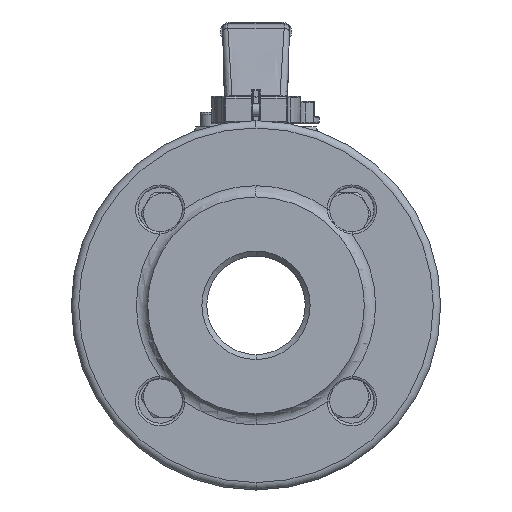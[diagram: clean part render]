
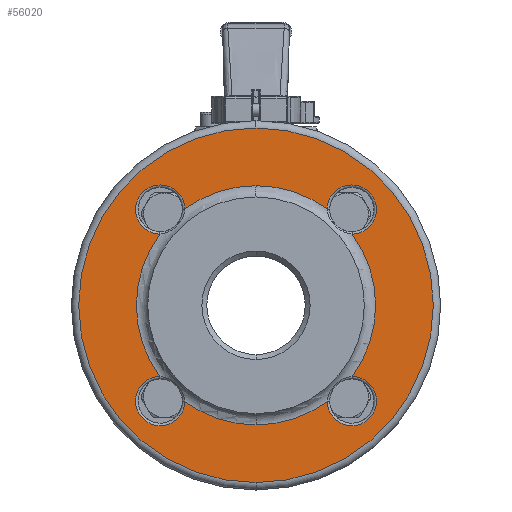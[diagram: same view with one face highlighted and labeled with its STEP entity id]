
A CAD part, left-side view. The second image highlights one B-rep face of the part: STEP entity #56020.
In plain terms, the highlighted planar face has unit normal (-1, 0, 0).
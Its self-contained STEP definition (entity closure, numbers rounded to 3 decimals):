
#57=CARTESIAN_POINT('',(-47.,0.,0.));
#58=DIRECTION('',(1.,0.,0.));
#59=DIRECTION('',(0.,0.804,-0.595));
#60=AXIS2_PLACEMENT_3D('',#57,#58,#59);
#62=CARTESIAN_POINT('',(-47.,0.,0.));
#63=DIRECTION('',(1.,0.,0.));
#64=DIRECTION('',(0.,0.,-1.));
#65=AXIS2_PLACEMENT_3D('',#62,#63,#64);
#67=CARTESIAN_POINT('',(-47.,0.,0.));
#68=DIRECTION('',(-1.,0.,0.));
#69=DIRECTION('',(0.,0.,-1.));
#70=AXIS2_PLACEMENT_3D('',#67,#68,#69);
#72=CARTESIAN_POINT('',(-47.,0.,0.));
#73=DIRECTION('',(-1.,0.,0.));
#74=DIRECTION('',(0.,-0.804,-0.595));
#75=AXIS2_PLACEMENT_3D('',#72,#73,#74);
#77=CARTESIAN_POINT('',(-47.,0.,0.));
#78=DIRECTION('',(-1.,0.,0.));
#79=DIRECTION('',(0.,-0.595,0.804));
#80=AXIS2_PLACEMENT_3D('',#77,#78,#79);
#82=CARTESIAN_POINT('',(-47.,0.,0.));
#83=DIRECTION('',(1.,0.,0.));
#84=DIRECTION('',(0.,0.595,0.804));
#85=AXIS2_PLACEMENT_3D('',#82,#83,#84);
#92=CARTESIAN_POINT('',(-47.,0.,0.));
#93=DIRECTION('',(1.,0.,0.));
#94=DIRECTION('',(0.,0.,-1.));
#95=AXIS2_PLACEMENT_3D('',#92,#93,#94);
#115=CARTESIAN_POINT('',(-47.,0.,0.));
#116=DIRECTION('',(1.,0.,0.));
#117=DIRECTION('',(0.,0.,1.));
#118=AXIS2_PLACEMENT_3D('',#115,#116,#117);
#45078=CARTESIAN_POINT('',(-47.,38.891,38.891));
#45079=DIRECTION('',(1.,0.,0.));
#45080=DIRECTION('',(0.,0.017,-1.));
#45081=AXIS2_PLACEMENT_3D('',#45078,#45079,#45080);
#45098=CARTESIAN_POINT('',(-47.,28.892,
39.058));
#45155=CARTESIAN_POINT('',(-47.,39.058,
28.892));
#45241=CARTESIAN_POINT('',(-47.,-38.891,38.891));
#45242=DIRECTION('',(1.,0.,0.));
#45243=DIRECTION('',(0.,1.,0.017));
#45244=AXIS2_PLACEMENT_3D('',#45241,#45242,#45243);
#45261=CARTESIAN_POINT('',(-47.,-39.058,
28.892));
#45352=CARTESIAN_POINT('',(-47.,-28.892,
39.058));
#45442=CARTESIAN_POINT('',(-47.,-39.058,
-28.892));
#45505=CARTESIAN_POINT('',(-47.,-38.891,-38.891));
#45506=DIRECTION('',(1.,0.,0.));
#45507=DIRECTION('',(0.,-0.017,1.));
#45508=AXIS2_PLACEMENT_3D('',#45505,#45506,#45507);
#45514=CARTESIAN_POINT('',(-47.,-28.892,
-39.058));
#45572=CARTESIAN_POINT('',(-47.,28.892,
-39.058));
#45586=CARTESIAN_POINT('',(-47.,38.891,-38.891));
#45587=DIRECTION('',(1.,0.,0.));
#45588=DIRECTION('',(0.,-1.,-0.017));
#45589=AXIS2_PLACEMENT_3D('',#45586,#45587,#45588);
#45606=CARTESIAN_POINT('',(-47.,39.058,
-28.892));
#45704=CARTESIAN_POINT('',(-47.,0.,-72.));
#45705=CARTESIAN_POINT('',(-47.,0.,72.));
#45706=VERTEX_POINT('',#45704);
#45707=VERTEX_POINT('',#45705);
#47288=VERTEX_POINT('',#45098);
#47291=VERTEX_POINT('',#45155);
#47305=VERTEX_POINT('',#45261);
#47308=VERTEX_POINT('',#45352);
#47318=VERTEX_POINT('',#45514);
#47322=VERTEX_POINT('',#45442);
#47338=VERTEX_POINT('',#45606);
#47341=VERTEX_POINT('',#45572);
#47351=CARTESIAN_POINT('',(-47.,0.,48.583));
#47352=VERTEX_POINT('',#47351);
#47353=CARTESIAN_POINT('',(-47.,0.,-48.583));
#47354=VERTEX_POINT('',#47353);
#55993=CARTESIAN_POINT('',(-47.,0.,0.));
#55994=DIRECTION('',(-1.,0.,0.));
#55995=DIRECTION('',(0.,0.,1.));
#55996=AXIS2_PLACEMENT_3D('',#55993,#55994,#55995);
#55997=PLANE('',#55996);
#55999=ORIENTED_EDGE('',*,*,#55998,.T.);
#56001=ORIENTED_EDGE('',*,*,#56000,.T.);
#56002=EDGE_LOOP('',(#55999,#56001));
#56003=FACE_OUTER_BOUND('',#56002,.F.);
#56005=ORIENTED_EDGE('',*,*,#56004,.F.);
#56006=ORIENTED_EDGE('',*,*,#55981,.F.);
#56008=ORIENTED_EDGE('',*,*,#56007,.F.);
#56009=ORIENTED_EDGE('',*,*,#55975,.F.);
#56010=ORIENTED_EDGE('',*,*,#55961,.T.);
#56012=ORIENTED_EDGE('',*,*,#56011,.F.);
#56013=ORIENTED_EDGE('',*,*,#55955,.T.);
#56015=ORIENTED_EDGE('',*,*,#56014,.F.);
#56016=ORIENTED_EDGE('',*,*,#55949,.T.);
#56017=ORIENTED_EDGE('',*,*,#55987,.F.);
#56018=EDGE_LOOP('',(#56005,#56006,#56008,#56009,#56010,#56012,#56013,#56015,
#56016,#56017));
#56019=FACE_BOUND('',#56018,.F.);
#56020=ADVANCED_FACE('',(#56003,#56019),#55997,.T.);
#61=CIRCLE('',#60,48.583);
#66=CIRCLE('',#65,48.583);
#71=CIRCLE('',#70,48.583);
#76=CIRCLE('',#75,48.583);
#81=CIRCLE('',#80,48.583);
#86=CIRCLE('',#85,48.583);
#96=CIRCLE('',#95,72.);
#119=CIRCLE('',#118,72.);
#45082=CIRCLE('',#45081,10.);
#45245=CIRCLE('',#45244,10.);
#45509=CIRCLE('',#45508,10.);
#45590=CIRCLE('',#45589,10.);
#55949=EDGE_CURVE('',#47308,#47352,#81,.T.);
#55955=EDGE_CURVE('',#47322,#47305,#76,.T.);
#55961=EDGE_CURVE('',#47354,#47318,#71,.T.);
#55975=EDGE_CURVE('',#47354,#47341,#66,.T.);
#55981=EDGE_CURVE('',#47338,#47291,#61,.T.);
#55987=EDGE_CURVE('',#47288,#47352,#86,.T.);
#55998=EDGE_CURVE('',#45706,#45707,#96,.T.);
#56000=EDGE_CURVE('',#45707,#45706,#119,.T.);
#56004=EDGE_CURVE('',#47291,#47288,#45082,.T.);
#56007=EDGE_CURVE('',#47341,#47338,#45590,.T.);
#56011=EDGE_CURVE('',#47322,#47318,#45509,.T.);
#56014=EDGE_CURVE('',#47308,#47305,#45245,.T.);
